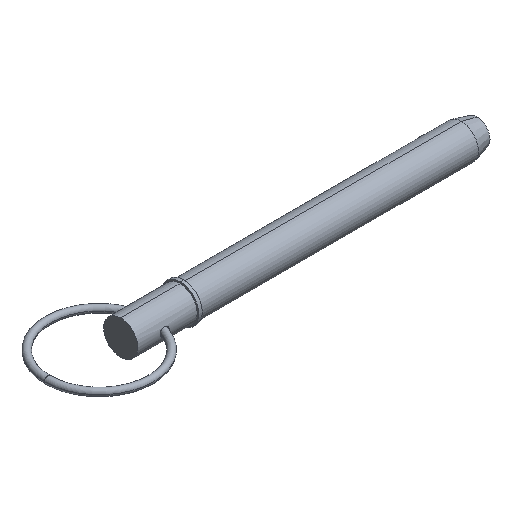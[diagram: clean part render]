
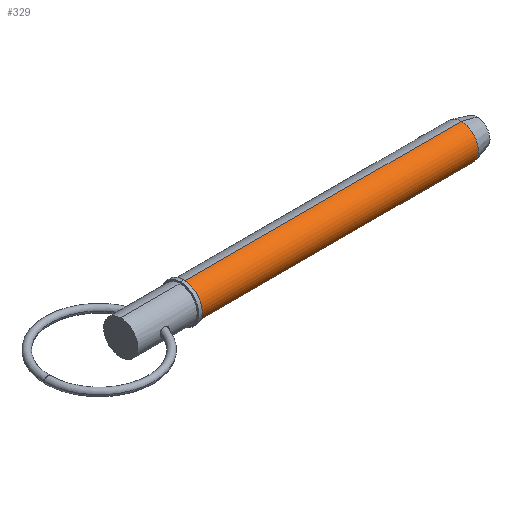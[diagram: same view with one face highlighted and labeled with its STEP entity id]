
A CAD part, isometric view. The second image highlights one B-rep face of the part: STEP entity #329.
In plain terms, the highlighted cylindrical face has radius 9.525 mm (diameter 19.05 mm), a partial arc.
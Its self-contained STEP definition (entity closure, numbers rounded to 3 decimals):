
#41 = CARTESIAN_POINT ( 'NONE',  ( 189.543, 0., 0. ) ) ;
#43 = DIRECTION ( 'NONE',  ( 0., 0., -1. ) ) ;
#78 = CARTESIAN_POINT ( 'NONE',  ( 189.543, 0., -9.525 ) ) ;
#135 = DIRECTION ( 'NONE',  ( 1., 0., 0. ) ) ;
#173 = LINE ( 'NONE', #499, #639 ) ;
#194 = CIRCLE ( 'NONE', #244, 9.525 ) ;
#213 = CYLINDRICAL_SURFACE ( 'NONE', #811, 9.525 ) ;
#244 = AXIS2_PLACEMENT_3D ( 'NONE', #711, #135, #1037 ) ;
#256 = VERTEX_POINT ( 'NONE', #792 ) ;
#277 = EDGE_LOOP ( 'NONE', ( #912, #1027, #364, #339 ) ) ;
#300 = EDGE_CURVE ( 'NONE', #581, #502, #455, .T. ) ;
#329 = ADVANCED_FACE ( 'NONE', ( #954 ), #213, .T. ) ;
#339 = ORIENTED_EDGE ( 'NONE', *, *, #874, .F. ) ;
#340 = CARTESIAN_POINT ( 'NONE',  ( 189.543, 0., 9.525 ) ) ;
#364 = ORIENTED_EDGE ( 'NONE', *, *, #522, .T. ) ;
#374 = DIRECTION ( 'NONE',  ( 0., 0., -1. ) ) ;
#455 = LINE ( 'NONE', #706, #828 ) ;
#499 = CARTESIAN_POINT ( 'NONE',  ( 0., 0., -9.525 ) ) ;
#502 = VERTEX_POINT ( 'NONE', #340 ) ;
#517 = CARTESIAN_POINT ( 'NONE',  ( 0., 0., 0. ) ) ;
#522 = EDGE_CURVE ( 'NONE', #256, #1010, #173, .T. ) ;
#581 = VERTEX_POINT ( 'NONE', #867 ) ;
#605 = CIRCLE ( 'NONE', #705, 9.525 ) ;
#639 = VECTOR ( 'NONE', #832, 1000. ) ;
#705 = AXIS2_PLACEMENT_3D ( 'NONE', #41, #1030, #374 ) ;
#706 = CARTESIAN_POINT ( 'NONE',  ( 0., 0., 9.525 ) ) ;
#711 = CARTESIAN_POINT ( 'NONE',  ( 34.93, 0., 0. ) ) ;
#792 = CARTESIAN_POINT ( 'NONE',  ( 34.93, 0., -9.525 ) ) ;
#806 = DIRECTION ( 'NONE',  ( 1., 0., 0. ) ) ;
#810 = DIRECTION ( 'NONE',  ( 1., 0., 0. ) ) ;
#811 = AXIS2_PLACEMENT_3D ( 'NONE', #517, #810, #43 ) ;
#828 = VECTOR ( 'NONE', #806, 1000. ) ;
#832 = DIRECTION ( 'NONE',  ( 1., 0., 0. ) ) ;
#867 = CARTESIAN_POINT ( 'NONE',  ( 34.93, 0., 9.525 ) ) ;
#874 = EDGE_CURVE ( 'NONE', #502, #1010, #605, .T. ) ;
#892 = EDGE_CURVE ( 'NONE', #581, #256, #194, .T. ) ;
#912 = ORIENTED_EDGE ( 'NONE', *, *, #300, .F. ) ;
#954 = FACE_OUTER_BOUND ( 'NONE', #277, .T. ) ;
#1010 = VERTEX_POINT ( 'NONE', #78 ) ;
#1027 = ORIENTED_EDGE ( 'NONE', *, *, #892, .T. ) ;
#1030 = DIRECTION ( 'NONE',  ( 1., 0., 0. ) ) ;
#1037 = DIRECTION ( 'NONE',  ( 0., 0., -1. ) ) ;
